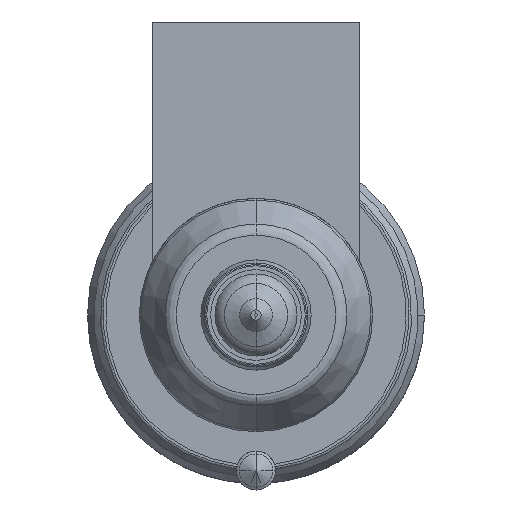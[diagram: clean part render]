
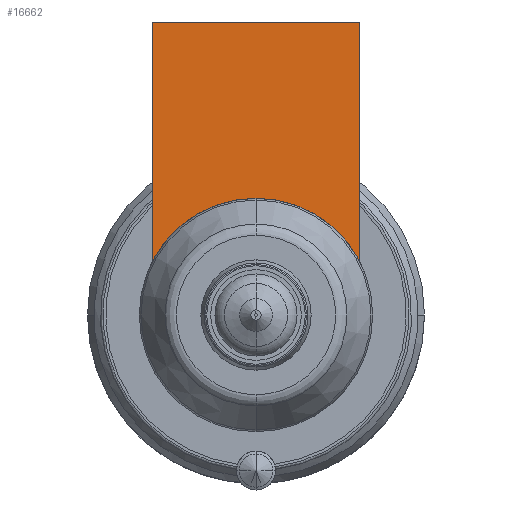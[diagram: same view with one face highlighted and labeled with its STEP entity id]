
A CAD part, front view. The second image highlights one B-rep face of the part: STEP entity #16662.
In plain terms, the highlighted planar face has unit normal (0, -1, 0).
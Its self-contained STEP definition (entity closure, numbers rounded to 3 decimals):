
#15244=DIRECTION('',(0.,0.,-1.));
#15245=VECTOR('',#15244,18.481);
#15246=CARTESIAN_POINT('',(-8.,-54.,22.604));
#15247=LINE('',#15246,#15245);
#15842=CARTESIAN_POINT('',(0.,-54.,0.));
#15843=DIRECTION('',(0.,-1.,0.));
#15844=DIRECTION('',(0.,0.,1.));
#15845=AXIS2_PLACEMENT_3D('',#15842,#15843,#15844);
#15850=DIRECTION('',(1.,0.,0.));
#15851=VECTOR('',#15850,16.);
#15852=CARTESIAN_POINT('',(-8.,-54.,22.604));
#15853=LINE('',#15852,#15851);
#15857=CARTESIAN_POINT('',(0.,-54.,0.));
#15858=DIRECTION('',(0.,-1.,0.));
#15859=DIRECTION('',(0.889,0.,0.458));
#15860=AXIS2_PLACEMENT_3D('',#15857,#15858,#15859);
#15943=DIRECTION('',(0.,0.,-1.));
#15944=VECTOR('',#15943,18.481);
#15945=CARTESIAN_POINT('',(8.,-54.,22.604));
#15946=LINE('',#15945,#15944);
#16048=CARTESIAN_POINT('',(-8.,-54.,22.604));
#16049=VERTEX_POINT('',#16048);
#16054=CARTESIAN_POINT('',(8.,-54.,22.604));
#16055=VERTEX_POINT('',#16054);
#16057=CARTESIAN_POINT('',(-8.,-54.,4.123));
#16059=VERTEX_POINT('',#16057);
#16061=CARTESIAN_POINT('',(8.,-54.,4.123));
#16063=VERTEX_POINT('',#16061);
#16064=CARTESIAN_POINT('',(0.,-54.,9.));
#16065=VERTEX_POINT('',#16064);
#16648=CARTESIAN_POINT('',(-8.,-54.,22.604));
#16649=DIRECTION('',(0.,-1.,0.));
#16650=DIRECTION('',(0.,0.,-1.));
#16651=AXIS2_PLACEMENT_3D('',#16648,#16649,#16650);
#16652=PLANE('',#16651);
#16653=ORIENTED_EDGE('',*,*,#16105,.T.);
#16654=ORIENTED_EDGE('',*,*,#16088,.F.);
#16656=ORIENTED_EDGE('',*,*,#16655,.T.);
#16658=ORIENTED_EDGE('',*,*,#16657,.T.);
#16659=ORIENTED_EDGE('',*,*,#16153,.T.);
#16660=EDGE_LOOP('',(#16653,#16654,#16656,#16658,#16659));
#16661=FACE_OUTER_BOUND('',#16660,.F.);
#16662=ADVANCED_FACE('',(#16661),#16652,.T.);
#15846=CIRCLE('',#15845,9.);
#15861=CIRCLE('',#15860,9.);
#16088=EDGE_CURVE('',#16049,#16059,#15247,.T.);
#16105=EDGE_CURVE('',#16065,#16059,#15846,.T.);
#16153=EDGE_CURVE('',#16063,#16065,#15861,.T.);
#16655=EDGE_CURVE('',#16049,#16055,#15853,.T.);
#16657=EDGE_CURVE('',#16055,#16063,#15946,.T.);
